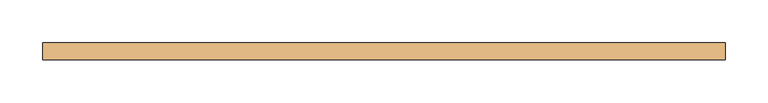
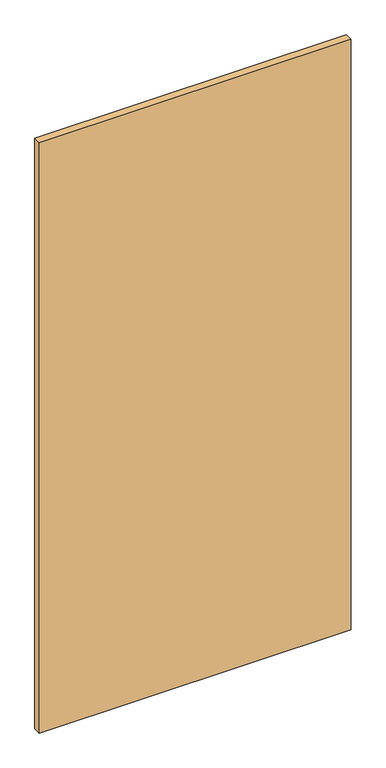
"""IFC4 building model written with IfcOpenShell, lengths in millimetres: door geometry, M_Descarga simples1 : 80X160 (PNE F)."""

from ifc_helpers import new_model, si_unit, origin, origin_with_axes, place, context, project, spatial, polyline, outline, extrude, source, transform, mapped, element, save


def door_301dbe86(model_context):
    return source(origin(), model_context, "Body", "SweptSolid", [
        extrude(outline(polyline([(400.0, 10.0), (400.0, -10.0), (-400.0, -10.0), (-400.0, 10.0), (400.0, 10.0)])), origin_with_axes(), (0.0, 0.0, 1.0), 1600.0),
    ])


if __name__ == "__main__":
    model = new_model("IFC4")
    model_context = context("Model", 3, world=origin())
    ifc_project = project(units=[si_unit("LENGTHUNIT", "METRE", prefix="MILLI")], contexts=[model_context])
    site = spatial("IfcSite", under=ifc_project)
    building = spatial("IfcBuilding", under=site)
    placement = place(None, origin())
    door_shape = door_301dbe86(model_context)
    element("IfcDoor", 1, ObjectType="M_Descarga simples1 : 80X160 (PNE F)", at=placement, inside=building, context=model_context, shape_type="MappedRepresentation", body=[
        mapped(door_shape, transform((0.0, 0.0, 0.0), x_axis=(1.0, 0.0, 0.0), y_axis=(0.0, 1.0, 0.0), z_axis=(0.0, 0.0, 1.0))),
    ])
    save(model, "model.ifc")
